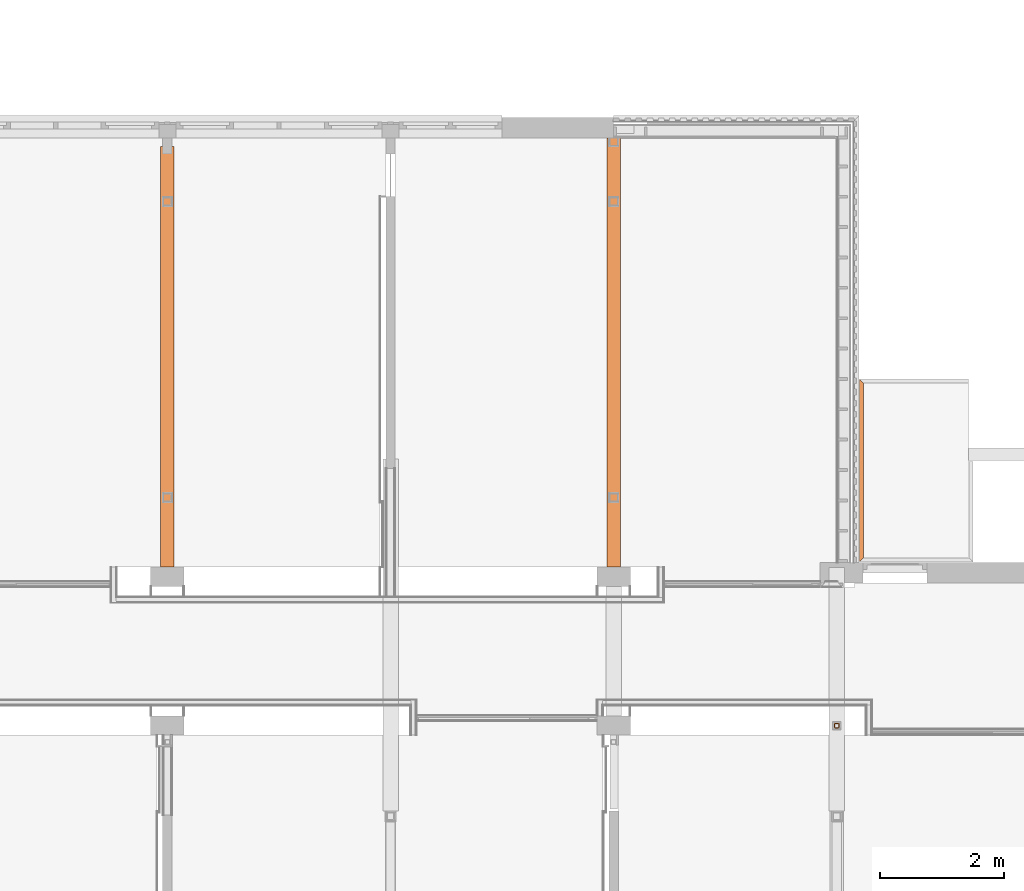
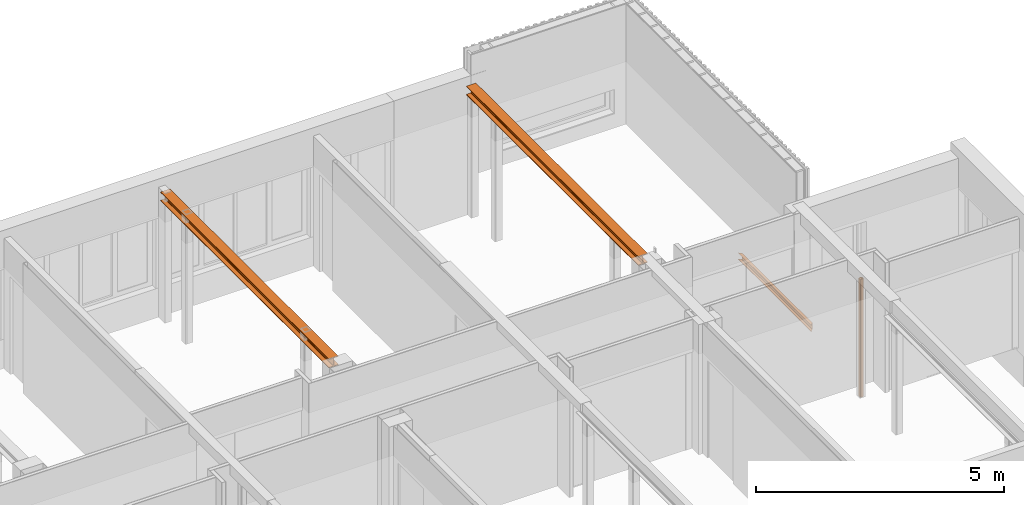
# One storey, part 97 of 99: 4 proxies.
"""IFC2X3 building model written with IfcOpenShell, lengths in millimetres."""

from ifc_helpers import new_model, entity, si_unit, converted_unit, derived_unit, money_unit, direction, frame, origin_with_axes, place, context, subcontext, project, spatial, faceted_brep, material, type_object, element, save


model = new_model("IFC2X3")

# Units and contexts
model_context = context("Model", 3, precision=0.01, world=origin_with_axes(), true_north=direction((0.0, 1.0)))
body_context = subcontext(model_context, "Body", "Model", "MODEL_VIEW")
ifc_project = project(units=[si_unit("LENGTHUNIT", "METRE", prefix="MILLI"), si_unit("AREAUNIT", "SQUARE_METRE"), si_unit("VOLUMEUNIT", "CUBIC_METRE"), converted_unit("PLANEANGLEUNIT", "DEGREE", entity("IfcPlaneAngleMeasure", 0.0174532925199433), si_unit("PLANEANGLEUNIT", "RADIAN"), dimensions=[0, 0, 0, 0, 0, 0, 0]), money_unit("EUR"), converted_unit("TIMEUNIT", "Year", entity("IfcTimeMeasure", 31557600.0), si_unit("TIMEUNIT", "SECOND"), dimensions=[0, 0, 1, 0, 0, 0, 0]), si_unit("MASSUNIT", "GRAM", prefix="KILO"), si_unit("THERMODYNAMICTEMPERATUREUNIT", "DEGREE_CELSIUS"), si_unit("LUMINOUSINTENSITYUNIT", "LUMEN"), si_unit("ENERGYUNIT", "JOULE", prefix="MEGA"), derived_unit("THERMALCONDUCTANCEUNIT", [(si_unit("POWERUNIT", "WATT"), 1), (si_unit("LENGTHUNIT", "METRE"), -1), (si_unit("THERMODYNAMICTEMPERATUREUNIT", "KELVIN"), -1)]), derived_unit("SPECIFICHEATCAPACITYUNIT", [(si_unit("ENERGYUNIT", "JOULE"), 1), (si_unit("MASSUNIT", "GRAM", prefix="KILO"), -1), (si_unit("THERMODYNAMICTEMPERATUREUNIT", "KELVIN"), -1)]), derived_unit("MASSDENSITYUNIT", [(si_unit("MASSUNIT", "GRAM", prefix="KILO"), 1), (si_unit("VOLUMEUNIT", "CUBIC_METRE"), -1)])], contexts=[model_context])

# Site, building, storey
site_placement = place(None, origin_with_axes())
site = spatial("IfcSite", under=ifc_project, at=site_placement, Name="Site", CompositionType="ELEMENT")
building_placement = place(site_placement, origin_with_axes())
building = spatial("IfcBuilding", under=site, at=building_placement, Name="Naam gebouw", CompositionType="ELEMENT")
storey_placement = place(building_placement, frame((0.0, 0.0, 7650.0), z_axis=(0.0, 0.0, 1.0), x_axis=(1.0, 0.0, 0.0)))
storey = spatial("IfcBuildingStorey", under=building, at=storey_placement, Name="2e verdieping N", CompositionType="ELEMENT", Elevation=7650.0)

# Proxies
ifc_material = material(Name="Metaal - Staal AFW")
building_element_proxy_type_1 = type_object("IfcBuildingElementProxyType", Name="Buis vk warmgew kolom 27", PredefinedType="NOTDEFINED")
proxy_1_placement = place(storey_placement, frame((54000.00000000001, 18025.91242510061, 0.0), z_axis=(0.0, 0.0, 1.0), x_axis=(0.0, -1.0, 0.0)))
element("IfcBuildingElementProxy", 1, at=proxy_1_placement, inside=storey, type_object=building_element_proxy_type_1, material=ifc_material, Name="_Boom-x", context=body_context, shape_type="Brep", body=[
    faceted_brep([(24.0, -40.0, 0.0), (24.0, -40.0, 2900.0), (-24.0, -40.0, 2900.0), (-24.0, -40.0, 0.0), (35.31370849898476, -35.31370849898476, 0.0), (35.31370849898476, -35.31370849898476, 2900.0), (40.0, -24.0, 2900.0), (40.00000000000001, 24.0, 2900.0), (35.31370849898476, 35.31370849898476, 2900.0), (24.0, 40.0, 2900.0), (-24.0, 40.00000000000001, 2900.0), (-35.31370849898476, 35.31370849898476, 2900.0), (-40.0, 24.0, 2900.0), (-40.0, -24.0, 2900.0), (-35.31370849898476, -35.31370849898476, 2900.0), (24.0, -32.0, 2900.0), (-24.0, -32.0, 2900.0), (-29.65685424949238, -29.65685424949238, 2900.0), (-32.0, -24.0, 2900.0), (-32.0, 24.0, 2900.0), (-29.65685424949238, 29.65685424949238, 2900.0), (-24.0, 32.0, 2900.0), (24.0, 32.0, 2900.0), (29.65685424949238, 29.65685424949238, 2900.0), (32.0, 24.0, 2900.0), (32.0, -24.0, 2900.0), (29.65685424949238, -29.65685424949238, 2900.0), (-35.31370849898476, -35.31370849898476, 0.0), (-40.0, -24.0, 0.0), (-40.0, 24.0, 0.0), (-35.31370849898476, 35.31370849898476, 0.0), (-24.0, 40.00000000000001, 0.0), (24.0, 40.0, 0.0), (35.31370849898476, 35.31370849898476, 0.0), (40.00000000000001, 24.0, 0.0), (40.0, -24.0, 0.0), (24.0, -32.0, 0.0), (29.65685424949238, -29.65685424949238, 0.0), (32.0, -24.0, 0.0), (32.0, 24.0, 0.0), (29.65685424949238, 29.65685424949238, 0.0), (24.0, 32.0, 0.0), (-24.0, 32.0, 0.0), (-29.65685424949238, 29.65685424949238, 0.0), (-32.0, 24.0, 0.0), (-32.0, -24.0, 0.0), (-29.65685424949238, -29.65685424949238, 0.0), (-24.0, -32.0, 0.0)], [[[0, 1, 2, 3]], [[4, 5, 1, 0]], [[1, 5, 6, 7, 8, 9, 10, 11, 12, 13, 14, 2], [15, 16, 17, 18, 19, 20, 21, 22, 23, 24, 25, 26]], [[3, 2, 14, 27]], [[0, 3, 27, 28, 29, 30, 31, 32, 33, 34, 35, 4], [36, 37, 38, 39, 40, 41, 42, 43, 44, 45, 46, 47]], [[35, 6, 5, 4]], [[34, 7, 6, 35]], [[33, 8, 7, 34]], [[32, 9, 8, 33]], [[31, 10, 9, 32]], [[30, 11, 10, 31]], [[29, 12, 11, 30]], [[28, 13, 12, 29]], [[27, 14, 13, 28]], [[47, 16, 15, 36]], [[46, 17, 16, 47]], [[45, 18, 17, 46]], [[44, 19, 18, 45]], [[43, 20, 19, 44]], [[42, 21, 20, 43]], [[41, 22, 21, 42]], [[40, 23, 22, 41]], [[39, 24, 23, 40]], [[38, 25, 24, 39]], [[37, 26, 25, 38]], [[36, 15, 26, 37]]]),
])
building_element_proxy_type_2 = type_object("IfcBuildingElementProxyType", Name="UPN balk 27", PredefinedType="NOTDEFINED")
proxy_2_placement = place(storey_placement, frame((54397.49999999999, 20698.4124251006, -147.3277191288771), z_axis=(0.0, 0.0, 1.0), x_axis=(0.0, 1.0, 0.0)))
element("IfcBuildingElementProxy", 2, at=proxy_2_placement, inside=storey, type_object=building_element_proxy_type_2, material=ifc_material, Name="_Boom-x", context=body_context, shape_type="Brep", body=[
    faceted_brep([(2852.499999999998, -32.50000000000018, 160.0000000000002), (2884.999999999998, 0.0, 160.0000000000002), (2917.499999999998, 32.49999999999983, 160.0000000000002), (-32.49999999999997, 32.5, 160.0), (32.49999999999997, -32.5, 160.0), (2884.999999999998, 0.0, 10.50000000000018), (2870.499999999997, -14.50000000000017, 10.50000000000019), (2865.249999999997, -19.75000000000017, 11.90673326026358), (2861.406733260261, -23.59326673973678, 15.75000000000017), (2859.999999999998, -25.00000000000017, 21.00000000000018), (2859.999999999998, -25.00000000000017, 139.0000000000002), (2861.406733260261, -23.59326673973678, 144.2500000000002), (2865.249999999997, -19.75000000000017, 148.0932667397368), (2870.499999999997, -14.50000000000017, 149.5000000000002), (2884.999999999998, 0.0, 149.5000000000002), (2911.999999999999, 26.99999999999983, 149.5000000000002), (2914.749999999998, 29.74999999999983, 150.2368602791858), (2916.763139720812, 31.76313972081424, 152.2500000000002), (2917.499999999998, 32.49999999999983, 155.0000000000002), (2852.499999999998, -32.50000000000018, 0.0), (2884.999999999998, 0.0, 0.0), (2917.499999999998, 32.49999999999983, 0.0), (2917.499999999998, 32.49999999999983, 5.000000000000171), (2916.763139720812, 31.76313972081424, 7.750000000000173), (2914.749999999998, 29.74999999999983, 9.763139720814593), (2911.999999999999, 26.99999999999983, 10.50000000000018), (-32.49999999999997, 32.5, 155.0), (-31.76313972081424, 31.76313972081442, 152.25), (-29.74999999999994, 29.75000000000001, 150.2368602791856), (-26.99999999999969, 27.00000000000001, 149.5), (14.49999999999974, -14.5, 149.5), (19.74999999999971, -19.75, 148.0932667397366), (23.59326673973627, -23.59326673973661, 144.2500000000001), (24.99999999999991, -25.0, 139.0), (24.99999999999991, -25.0, 21.0), (23.59326673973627, -23.59326673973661, 15.75), (19.74999999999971, -19.75, 11.9067332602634), (14.49999999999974, -14.5, 10.50000000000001), (-26.99999999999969, 27.00000000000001, 10.49999999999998), (-29.74999999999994, 29.75000000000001, 9.763139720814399), (-31.76313972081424, 31.76313972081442, 7.749999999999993), (-32.49999999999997, 32.5, 4.999999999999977), (-32.49999999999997, 32.5, 0.0), (32.49999999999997, -32.5, 0.0)], [[[0, 1, 2, 3, 4]], [[5, 6, 7, 8, 9, 10, 11, 12, 13, 14, 15, 16, 17, 18, 2, 1, 0, 19, 20, 21, 22, 23, 24, 25]], [[18, 26, 3, 2]], [[4, 3, 26, 27, 28, 29, 30, 31, 32, 33, 34, 35, 36, 37, 38, 39, 40, 41, 42, 43]], [[19, 0, 4, 43]], [[6, 5, 25, 38, 37]], [[7, 6, 37, 36]], [[8, 7, 36, 35]], [[9, 8, 35, 34]], [[10, 9, 34, 33]], [[11, 10, 33, 32]], [[12, 11, 32, 31]], [[13, 12, 31, 30]], [[14, 13, 30, 29, 15]], [[15, 29, 28, 16]], [[16, 28, 27, 17]], [[17, 27, 26, 18]], [[20, 19, 43, 42, 21]], [[21, 42, 41, 22]], [[22, 41, 40, 23]], [[23, 40, 39, 24]], [[24, 39, 38, 25]]]),
])
building_element_proxy_type_3 = type_object("IfcBuildingElementProxyType", Name="HEB balk 27", PredefinedType="NOTDEFINED")
proxy_3_placement = place(storey_placement, frame((43199.99999999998, 20580.91242510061, 2959.999999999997), z_axis=(0.0, 0.0, 1.0), x_axis=(0.0, -1.0, 0.0)))
element("IfcBuildingElementProxy", 3, at=proxy_3_placement, inside=storey, type_object=building_element_proxy_type_3, material=ifc_material, Name="_Boom-x", context=body_context, shape_type="Brep", body=[
    faceted_brep([(0.0, -110.0, 0.0), (-6785.0, -110.0000000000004, 0.0), (-6785.0, 109.9999999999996, 0.0), (0.0, 110.0, 0.0), (0.0, -110.0, 16.0), (-6785.0, -110.0000000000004, 16.00000000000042), (-6785.0, -22.75000000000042, 16.00000000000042), (-6785.0, -13.75000000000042, 18.41154273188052), (-6785.0, -7.16154273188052, 25.00000000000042), (-6785.0, -4.750000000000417, 34.00000000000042), (-6785.0, -4.750000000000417, 186.0000000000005), (-6785.0, -7.161542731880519, 195.0000000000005), (-6785.0, -13.75000000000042, 201.5884572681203), (-6785.0, -22.75000000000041, 204.0000000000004), (-6785.0, -110.0000000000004, 204.0000000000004), (-6785.0, -110.0000000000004, 220.0000000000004), (-6785.0, 109.9999999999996, 220.0000000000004), (-6785.0, 109.9999999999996, 204.0000000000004), (-6785.0, 22.74999999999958, 204.0000000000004), (-6785.0, 13.74999999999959, 201.5884572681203), (-6785.0, 7.161542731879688, 195.0000000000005), (-6785.0, 4.749999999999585, 186.0000000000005), (-6785.0, 4.749999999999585, 34.00000000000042), (-6785.0, 7.161542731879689, 25.00000000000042), (-6785.0, 13.74999999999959, 18.41154273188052), (-6785.0, 22.74999999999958, 16.00000000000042), (-6785.0, 109.9999999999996, 16.00000000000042), (0.0, 110.0, 16.0), (0.0, 22.75, 16.0), (0.0, 13.75, 18.41154273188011), (0.0, 7.161542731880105, 25.0), (0.0, 4.750000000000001, 34.0), (0.0, 4.750000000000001, 186.0), (0.0, 7.161542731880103, 195.0), (0.0, 13.75, 201.5884572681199), (0.0, 22.75, 204.0), (0.0, 110.0, 204.0), (0.0, 110.0, 220.0), (0.0, -110.0, 220.0), (0.0, -110.0, 204.0), (0.0, -22.75, 204.0), (0.0, -13.75, 201.5884572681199), (0.0, -7.161542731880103, 195.0), (0.0, -4.750000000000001, 186.0), (0.0, -4.750000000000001, 34.0), (0.0, -7.161542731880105, 25.0), (0.0, -13.75, 18.41154273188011), (0.0, -22.75, 16.0)], [[[0, 1, 2, 3]], [[4, 5, 1, 0]], [[1, 5, 6, 7, 8, 9, 10, 11, 12, 13, 14, 15, 16, 17, 18, 19, 20, 21, 22, 23, 24, 25, 26, 2]], [[3, 2, 26, 27]], [[0, 3, 27, 28, 29, 30, 31, 32, 33, 34, 35, 36, 37, 38, 39, 40, 41, 42, 43, 44, 45, 46, 47, 4]], [[47, 6, 5, 4]], [[46, 7, 6, 47]], [[45, 8, 7, 46]], [[44, 9, 8, 45]], [[43, 10, 9, 44]], [[42, 11, 10, 43]], [[41, 12, 11, 42]], [[40, 13, 12, 41]], [[39, 14, 13, 40]], [[38, 15, 14, 39]], [[37, 16, 15, 38]], [[36, 17, 16, 37]], [[35, 18, 17, 36]], [[34, 19, 18, 35]], [[33, 20, 19, 34]], [[32, 21, 20, 33]], [[31, 22, 21, 32]], [[30, 23, 22, 31]], [[29, 24, 23, 30]], [[28, 25, 24, 29]], [[27, 26, 25, 28]]]),
])
proxy_4_placement = place(storey_placement, frame((50399.3066686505, 20581.22465016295, 2959.999999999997), z_axis=(0.0, 0.0, 1.0), x_axis=(0.0, -1.0, 0.0)))
element("IfcBuildingElementProxy", 4, at=proxy_4_placement, inside=storey, type_object=building_element_proxy_type_3, material=ifc_material, Name="_Boom-x", context=body_context, shape_type="Brep", body=[
    faceted_brep([(0.0, -110.0, 0.0), (-6924.687774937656, -110.0000000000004, 0.0), (-6924.687774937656, 109.9999999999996, 0.0), (0.0, 110.0, 0.0), (0.0, -110.0, 16.0), (-6924.687774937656, -110.0000000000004, 16.00000000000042), (-6924.687774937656, -22.75000000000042, 16.00000000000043), (-6924.687774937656, -13.75000000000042, 18.41154273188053), (-6924.687774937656, -7.161542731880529, 25.00000000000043), (-6924.687774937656, -4.750000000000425, 34.00000000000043), (-6924.687774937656, -4.750000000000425, 186.0000000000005), (-6924.687774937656, -7.161542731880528, 195.0000000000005), (-6924.687774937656, -13.75000000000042, 201.5884572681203), (-6924.687774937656, -22.75000000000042, 204.0000000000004), (-6924.687774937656, -110.0000000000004, 204.0000000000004), (-6924.687774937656, -110.0000000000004, 220.0000000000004), (-6924.687774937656, 109.9999999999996, 220.0000000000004), (-6924.687774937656, 109.9999999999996, 204.0000000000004), (-6924.687774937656, 22.74999999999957, 204.0000000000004), (-6924.687774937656, 13.74999999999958, 201.5884572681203), (-6924.687774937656, 7.161542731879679, 195.0000000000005), (-6924.687774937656, 4.749999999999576, 186.0000000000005), (-6924.687774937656, 4.749999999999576, 34.00000000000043), (-6924.687774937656, 7.161542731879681, 25.00000000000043), (-6924.687774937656, 13.74999999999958, 18.41154273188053), (-6924.687774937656, 22.74999999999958, 16.00000000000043), (-6924.687774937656, 109.9999999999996, 16.00000000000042), (0.0, 110.0, 16.0), (0.0, 22.75, 16.0), (0.0, 13.75, 18.41154273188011), (0.0, 7.161542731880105, 25.0), (0.0, 4.750000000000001, 34.0), (0.0, 4.750000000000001, 186.0), (0.0, 7.161542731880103, 195.0), (0.0, 13.75, 201.5884572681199), (0.0, 22.75, 204.0), (0.0, 110.0, 204.0), (0.0, 110.0, 220.0), (0.0, -110.0, 220.0), (0.0, -110.0, 204.0), (0.0, -22.75, 204.0), (0.0, -13.75, 201.5884572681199), (0.0, -7.161542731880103, 195.0), (0.0, -4.750000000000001, 186.0), (0.0, -4.750000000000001, 34.0), (0.0, -7.161542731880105, 25.0), (0.0, -13.75, 18.41154273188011), (0.0, -22.75, 16.0)], [[[0, 1, 2, 3]], [[4, 5, 1, 0]], [[1, 5, 6, 7, 8, 9, 10, 11, 12, 13, 14, 15, 16, 17, 18, 19, 20, 21, 22, 23, 24, 25, 26, 2]], [[3, 2, 26, 27]], [[0, 3, 27, 28, 29, 30, 31, 32, 33, 34, 35, 36, 37, 38, 39, 40, 41, 42, 43, 44, 45, 46, 47, 4]], [[47, 6, 5, 4]], [[46, 7, 6, 47]], [[45, 8, 7, 46]], [[44, 9, 8, 45]], [[43, 10, 9, 44]], [[42, 11, 10, 43]], [[41, 12, 11, 42]], [[40, 13, 12, 41]], [[39, 14, 13, 40]], [[38, 15, 14, 39]], [[37, 16, 15, 38]], [[36, 17, 16, 37]], [[35, 18, 17, 36]], [[34, 19, 18, 35]], [[33, 20, 19, 34]], [[32, 21, 20, 33]], [[31, 22, 21, 32]], [[30, 23, 22, 31]], [[29, 24, 23, 30]], [[28, 25, 24, 29]], [[27, 26, 25, 28]]]),
])

save(model, "model.ifc")
